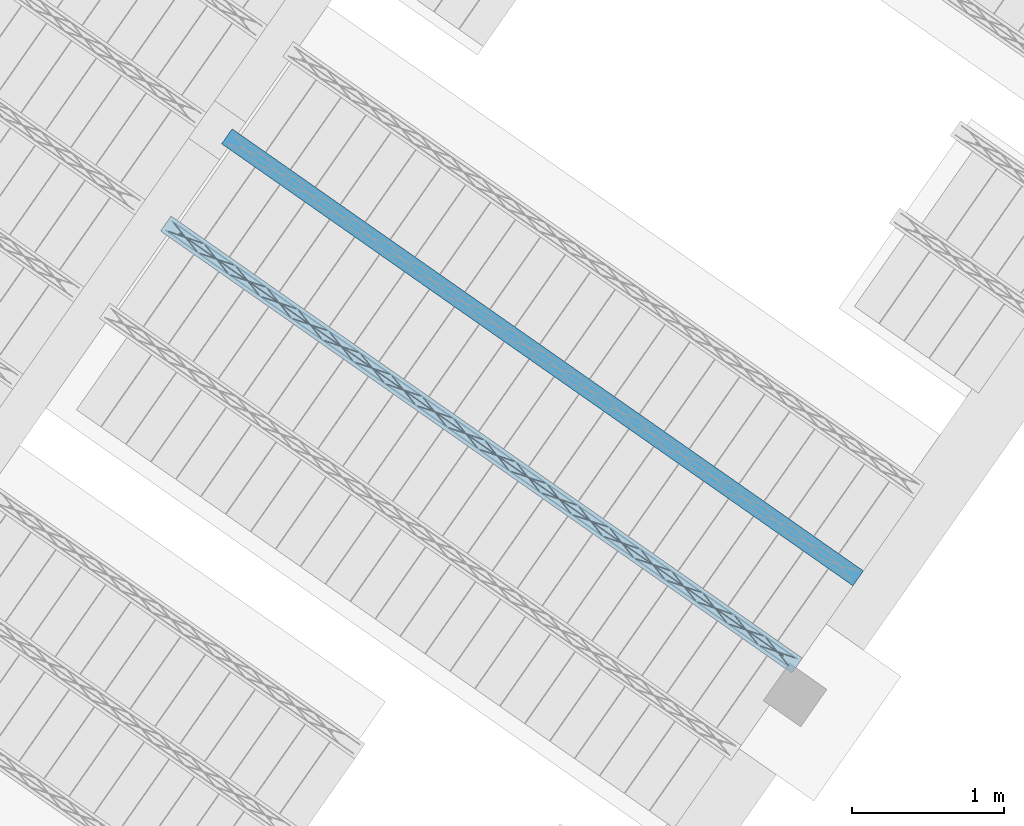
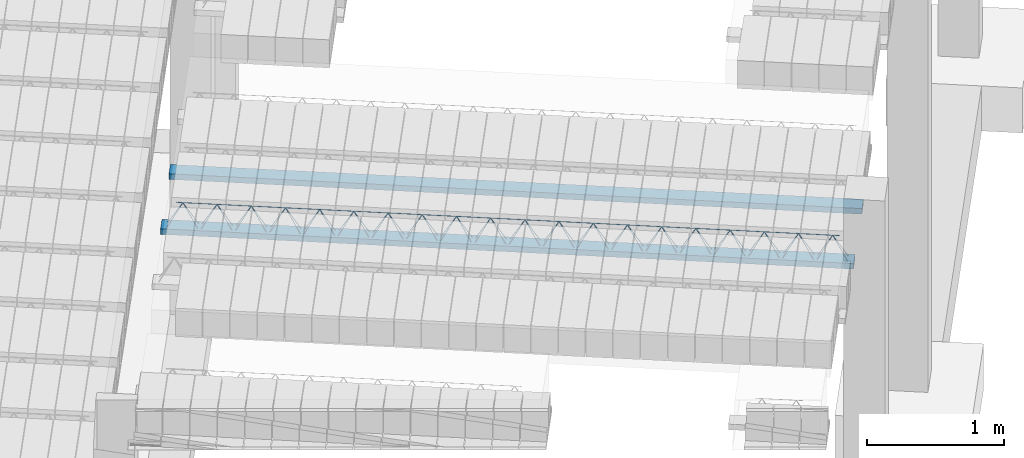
# One storey, part 25 of 80: 2 beams.
"""IFC2X3 building model written with IfcOpenShell, lengths in metres."""

import ifcopenshell
import ifcopenshell.guid

model = None  # the IFC model being written
_history = None  # IfcOwnerHistory: only IFC2X3 demands one
_inside = {}  # id of a spatial element -> (the spatial element, [elements in it])
_under = {}  # id of a project, library or spatial element -> (it, [spatial elements below it])
_declared = {}  # id of a project -> (the project, [libraries it declares])
_typed = {}  # id of a type object -> (the type object, [elements of that type])
_made_of = {}  # id of a material, layer set ... -> (it, [elements and type objects made of it])


def new_model(schema):
    """Start an empty IFC model of exactly this schema.

    Asked for "IFC4X3", IfcOpenShell would pick the latest addendum, in which some entities
    have other attributes; the version numbers below select the first issue.
    IFC2X3 requires an IfcOwnerHistory on every rooted entity: one is made here for all.
    """
    global model, _history
    if schema == "IFC4X3":
        model = ifcopenshell.file(schema_version=(4, 3, 0, 0))
    else:
        model = ifcopenshell.file(schema=schema)
    _inside.clear()
    _under.clear()
    _declared.clear()
    _typed.clear()
    _made_of.clear()
    _history = None
    if model.schema == "IFC2X3":
        org = make("IfcOrganization", Name="unknown")
        user = make(
            "IfcPersonAndOrganization",
            ThePerson=make("IfcPerson", FamilyName="unknown"),
            TheOrganization=org,
        )
        app = make(
            "IfcApplication",
            ApplicationDeveloper=org,
            Version="unknown",
            ApplicationFullName="unknown",
            ApplicationIdentifier="unknown",
        )
        _history = make(
            "IfcOwnerHistory",
            OwningUser=user,
            OwningApplication=app,
            ChangeAction="ADDED",
            CreationDate=0,
        )
    return model


def make(cls, **values):
    """One entity of the class cls with the attributes given. An attribute that is None is left unset."""
    return model.create_entity(
        cls, **{name: value for name, value in values.items() if value is not None}
    )


def entity(cls, *values):
    """Any entity or typed value of the class cls, its attributes in the order of the schema. None: left unset."""
    e = model.create_entity(cls)
    for i, value in enumerate(values):
        if value is not None:
            e[i] = value
    return e


def rooted(cls, **values):
    """An entity with a GlobalId (a new one), such as an element, a storey or a relation."""
    return make(cls, GlobalId=ifcopenshell.guid.new(), OwnerHistory=_history, **values)


def si_unit(unit_type, name, prefix=None):
    """IfcSIUnit, for example si_unit("LENGTHUNIT", "METRE", prefix="MILLI")."""
    return make("IfcSIUnit", UnitType=unit_type, Prefix=prefix, Name=name)


def converted_unit(unit_type, name, factor, base, dimensions=None, offset=None):
    """IfcConversionBasedUnit, such as the inch: factor (a typed value) times the base unit."""
    return make(
        "IfcConversionBasedUnit"
        if offset is None
        else "IfcConversionBasedUnitWithOffset",
        ConversionOffset=offset,
        Dimensions=None
        if dimensions is None
        else entity("IfcDimensionalExponents", *dimensions),
        UnitType=unit_type,
        Name=name,
        ConversionFactor=make(
            "IfcMeasureWithUnit", ValueComponent=factor, UnitComponent=base
        ),
    )


def derived_unit(unit_type, elements):
    """IfcDerivedUnit: a product of units, each with its exponent."""
    return make(
        "IfcDerivedUnit",
        Elements=[
            make("IfcDerivedUnitElement", Unit=unit, Exponent=power)
            for unit, power in elements
        ],
        UnitType=unit_type,
    )


def assignment(units):
    """IfcUnitAssignment: the units of a project."""
    return None if units is None else make("IfcUnitAssignment", Units=units)


def point(xyz):
    """IfcCartesianPoint."""
    return None if xyz is None else make("IfcCartesianPoint", Coordinates=xyz)


def direction(xyz):
    """IfcDirection."""
    return None if xyz is None else make("IfcDirection", DirectionRatios=xyz)


def frame(location, z_axis=None, x_axis=None):
    """IfcAxis2Placement3D, a coordinate frame: its origin and axes. An axis left out is left unset."""
    return make(
        "IfcAxis2Placement3D",
        Location=point(location),
        Axis=direction(z_axis),
        RefDirection=direction(x_axis),
    )


def frame_2d(location, x_axis=None):
    """IfcAxis2Placement2D, a coordinate frame in the plane: its origin and x axis."""
    return make(
        "IfcAxis2Placement2D", Location=point(location), RefDirection=direction(x_axis)
    )


def origin():
    """The frame at (0, 0, 0) with its axes left unset."""
    return frame((0.0, 0.0, 0.0))


def origin_2d_with_axis():
    """The frame at (0, 0) in the plane with the x axis (1, 0) written out."""
    return frame_2d((0.0, 0.0), x_axis=(1.0, 0.0))


def place(relative_to, where):
    """IfcLocalPlacement: puts the frame where relative to a parent placement (None: the world)."""
    return make(
        "IfcLocalPlacement", PlacementRelTo=relative_to, RelativePlacement=where
    )


def context(
    kind, dimensions, precision=None, world=None, true_north=None, identifier=None
):
    """IfcGeometricRepresentationContext, for example the 3D "Model" context."""
    return make(
        "IfcGeometricRepresentationContext",
        ContextIdentifier=identifier,
        ContextType=kind,
        CoordinateSpaceDimension=dimensions,
        Precision=precision,
        WorldCoordinateSystem=world,
        TrueNorth=true_north,
    )


def subcontext(parent, identifier, kind, view, scale=None):
    """IfcGeometricRepresentationSubContext, for example "Body" below "Model"."""
    return make(
        "IfcGeometricRepresentationSubContext",
        ContextIdentifier=identifier,
        ContextType=kind,
        ParentContext=parent,
        TargetScale=scale,
        TargetView=view,
    )


def project(units=None, contexts=None):
    """IfcProject with its units and contexts."""
    return rooted(
        "IfcProject",
        Name="project",
        RepresentationContexts=contexts,
        UnitsInContext=assignment(units),
    )


def spatial(cls, under=None, at=None, **own):
    """A site, building, storey or space (cls), placed at a placement, below another one or the project."""
    s = rooted(cls, ObjectPlacement=at, **own)
    if under is not None:
        _under.setdefault(under.id(), (under, []))[1].append(s)
    return s


def profile(cls, at=None, kind="AREA", **sizes):
    """A parametric profile (cls). Its sizes go by their IFC names, for example OverallWidth=200.0."""
    return make(cls, ProfileType=kind, Position=at, **sizes)


def rectangle(**sizes):
    """IfcRectangleProfileDef."""
    return profile("IfcRectangleProfileDef", **sizes)


def circle(**sizes):
    """IfcCircleProfileDef."""
    return profile("IfcCircleProfileDef", **sizes)


def extrude(swept, where, along, depth):
    """IfcExtrudedAreaSolid: the profile swept, set in the frame where, extruded along a direction by depth."""
    return make(
        "IfcExtrudedAreaSolid",
        SweptArea=swept,
        Position=where,
        ExtrudedDirection=direction(along),
        Depth=depth,
    )


def shape(context_of_items, identifier, shape_type, items):
    """IfcShapeRepresentation: the items that make up one representation, for example the "Body"."""
    return make(
        "IfcShapeRepresentation",
        ContextOfItems=context_of_items,
        RepresentationIdentifier=identifier,
        RepresentationType=shape_type,
        Items=items,
    )


def material(Name=None, Category=None):
    """IfcMaterial."""
    return make("IfcMaterial", Name=Name, Category=Category)


def made_of(thing, what):
    """Note that an element or type object is made of a material, layer set ...; save() writes the relation."""
    if what is not None:
        _made_of.setdefault(what.id(), (what, []))[1].append(thing)
    return thing


def type_object(cls, material=None, **own):
    """A type object (cls), such as IfcWallType, which elements share."""
    return made_of(rooted(cls, **own), material)


def element(
    cls,
    number,
    at=None,
    inside=None,
    cuts=None,
    type_object=None,
    material=None,
    context=None,
    identifier="Body",
    shape_type=None,
    held_by="IfcProductDefinitionShape",
    body=None,
    shapes=None,
    **own,
):
    """One element of the class cls, such as IfcWall. Its Tag is "e" and its number.

    at: its placement. inside: the storey or other place that contains it. cuts: it is an
    opening in that element (IfcRelVoidsElement). A single representation is given by context,
    identifier, shape_type and body (its items); several are given by shapes. held_by: the class
    of the entity that holds the representations. save() writes the other relations.
    """
    e = rooted(cls, Tag="e%d" % number, ObjectPlacement=at, **own)
    if body is not None:
        shapes = [shape(context, identifier, shape_type, body)]
    if shapes is not None:
        e.Representation = make(held_by, Representations=shapes)
    if inside is not None:
        _inside.setdefault(inside.id(), (inside, []))[1].append(e)
    if cuts is not None:
        rooted(
            "IfcRelVoidsElement", RelatingBuildingElement=cuts, RelatedOpeningElement=e
        )
    if type_object is not None:
        _typed.setdefault(type_object.id(), (type_object, []))[1].append(e)
    return made_of(e, material)


def aggregate(whole, parts):
    """IfcRelAggregates: a whole, such as a stair, and the parts it consists of."""
    return rooted("IfcRelAggregates", RelatingObject=whole, RelatedObjects=parts)


def save(model, path):
    """Write the relations noted so far, then the file.

    IfcRelAggregates (storeys below a building ...), IfcRelContainedInSpatialStructure (elements
    in a storey), IfcRelDefinesByType, IfcRelAssociatesMaterial and IfcRelDeclares: one each for
    every whole, place, type object, material and project.
    """
    for whole, parts in _under.values():
        aggregate(whole, parts)
    for where, things in _inside.values():
        rooted(
            "IfcRelContainedInSpatialStructure",
            RelatedElements=things,
            RelatingStructure=where,
        )
    for kind, things in _typed.values():
        rooted("IfcRelDefinesByType", RelatedObjects=things, RelatingType=kind)
    for what, things in _made_of.values():
        rooted("IfcRelAssociatesMaterial", RelatedObjects=things, RelatingMaterial=what)
    for by, libraries in _declared.values():
        rooted("IfcRelDeclares", RelatingContext=by, RelatedDefinitions=libraries)
    model.write(path)


model = new_model("IFC2X3")

# Units and contexts
model_context = context("Model", 3, precision=1e-05, world=origin(), true_north=direction((6.123031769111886e-17, 1.0)))
body_context = subcontext(model_context, "Body", "Model", "MODEL_VIEW")
ifc_project = project(units=[si_unit("LENGTHUNIT", "METRE"), si_unit("AREAUNIT", "SQUARE_METRE"), si_unit("VOLUMEUNIT", "CUBIC_METRE"), converted_unit("PLANEANGLEUNIT", "DEGREE", entity("IfcPlaneAngleMeasure", 0.017453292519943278), si_unit("PLANEANGLEUNIT", "RADIAN"), dimensions=[0, 0, 0, 0, 0, 0, 0]), si_unit("MASSUNIT", "GRAM", prefix="KILO"), derived_unit("MASSDENSITYUNIT", [(si_unit("MASSUNIT", "GRAM", prefix="KILO"), 1), (si_unit("LENGTHUNIT", "METRE"), -3)]), derived_unit("IONCONCENTRATIONUNIT", [(si_unit("MASSUNIT", "GRAM", prefix="KILO"), 1), (si_unit("LENGTHUNIT", "METRE"), -3)]), derived_unit("MOMENTOFINERTIAUNIT", [(si_unit("LENGTHUNIT", "METRE"), 4)]), si_unit("TIMEUNIT", "SECOND"), si_unit("FREQUENCYUNIT", "HERTZ"), si_unit("THERMODYNAMICTEMPERATUREUNIT", "DEGREE_CELSIUS"), derived_unit("THERMALTRANSMITTANCEUNIT", [(si_unit("MASSUNIT", "GRAM", prefix="KILO"), 1), (si_unit("THERMODYNAMICTEMPERATUREUNIT", "KELVIN"), -1), (si_unit("TIMEUNIT", "SECOND"), -3)]), derived_unit("THERMALCONDUCTANCEUNIT", [(si_unit("MASSUNIT", "GRAM", prefix="KILO"), 1), (si_unit("THERMODYNAMICTEMPERATUREUNIT", "KELVIN"), -1), (si_unit("TIMEUNIT", "SECOND"), -3), (si_unit("LENGTHUNIT", "METRE"), 1)]), derived_unit("VOLUMETRICFLOWRATEUNIT", [(si_unit("LENGTHUNIT", "METRE", prefix="DECI"), 3), (si_unit("TIMEUNIT", "SECOND"), -1)]), derived_unit("MASSFLOWRATEUNIT", [(si_unit("MASSUNIT", "GRAM", prefix="KILO"), 1), (si_unit("TIMEUNIT", "SECOND"), -1)]), derived_unit("ROTATIONALFREQUENCYUNIT", [(si_unit("TIMEUNIT", "SECOND"), -1)]), si_unit("ELECTRICCURRENTUNIT", "AMPERE"), si_unit("ELECTRICVOLTAGEUNIT", "VOLT"), si_unit("POWERUNIT", "WATT"), si_unit("FORCEUNIT", "NEWTON", prefix="KILO"), si_unit("ILLUMINANCEUNIT", "LUX"), si_unit("LUMINOUSFLUXUNIT", "LUMEN"), si_unit("LUMINOUSINTENSITYUNIT", "CANDELA"), si_unit("ENERGYUNIT", "JOULE"), derived_unit("USERDEFINED", [(si_unit("MASSUNIT", "GRAM", prefix="KILO"), -1), (si_unit("LENGTHUNIT", "METRE"), -2), (si_unit("TIMEUNIT", "SECOND"), 3), (si_unit("LUMINOUSFLUXUNIT", "LUMEN"), 1)]), derived_unit("USERDEFINED", [(si_unit("MASSUNIT", "GRAM", prefix="KILO"), 1), (si_unit("TIMEUNIT", "SECOND"), -3), (si_unit("LENGTHUNIT", "METRE"), 3), (si_unit("ELECTRICCURRENTUNIT", "AMPERE"), -2)]), derived_unit("SOUNDPOWERUNIT", [(si_unit("MASSUNIT", "GRAM", prefix="KILO"), 1), (si_unit("TIMEUNIT", "SECOND"), -3), (si_unit("LENGTHUNIT", "METRE"), 2)]), derived_unit("SOUNDPRESSUREUNIT", [(si_unit("MASSUNIT", "GRAM", prefix="KILO"), 1), (si_unit("LENGTHUNIT", "METRE"), -1), (si_unit("TIMEUNIT", "SECOND"), -2)]), derived_unit("LINEARVELOCITYUNIT", [(si_unit("LENGTHUNIT", "METRE"), 1), (si_unit("TIMEUNIT", "SECOND"), -1)]), si_unit("PRESSUREUNIT", "PASCAL"), derived_unit("USERDEFINED", [(si_unit("MASSUNIT", "GRAM", prefix="KILO"), 1), (si_unit("LENGTHUNIT", "METRE"), -2), (si_unit("TIMEUNIT", "SECOND"), -2)]), derived_unit("LINEARFORCEUNIT", [(si_unit("MASSUNIT", "GRAM", prefix="KILO"), 1), (si_unit("TIMEUNIT", "SECOND"), -2)]), derived_unit("PLANARFORCEUNIT", [(si_unit("MASSUNIT", "GRAM", prefix="KILO"), 1), (si_unit("LENGTHUNIT", "METRE"), -1), (si_unit("TIMEUNIT", "SECOND"), -2)]), derived_unit("SPECIFICHEATCAPACITYUNIT", [(si_unit("THERMODYNAMICTEMPERATUREUNIT", "KELVIN"), -1), (si_unit("LENGTHUNIT", "METRE"), 2), (si_unit("TIMEUNIT", "SECOND"), -2)]), derived_unit("HEATFLUXDENSITYUNIT", [(si_unit("MASSUNIT", "GRAM", prefix="KILO"), 1), (si_unit("TIMEUNIT", "SECOND"), -3)]), derived_unit("HEATINGVALUEUNIT", [(si_unit("LENGTHUNIT", "METRE"), 2), (si_unit("TIMEUNIT", "SECOND"), -2)]), derived_unit("VAPORPERMEABILITYUNIT", [(si_unit("LENGTHUNIT", "METRE"), -1), (si_unit("TIMEUNIT", "SECOND"), 1)]), derived_unit("DYNAMICVISCOSITYUNIT", [(si_unit("MASSUNIT", "GRAM", prefix="KILO"), 1), (si_unit("TIMEUNIT", "SECOND"), -1), (si_unit("LENGTHUNIT", "METRE"), -1)]), derived_unit("THERMALEXPANSIONCOEFFICIENTUNIT", [(si_unit("THERMODYNAMICTEMPERATUREUNIT", "KELVIN"), -1)]), derived_unit("MODULUSOFELASTICITYUNIT", [(si_unit("MASSUNIT", "GRAM", prefix="KILO"), 1), (si_unit("LENGTHUNIT", "METRE"), -1), (si_unit("TIMEUNIT", "SECOND"), -2)]), derived_unit("ISOTHERMALMOISTURECAPACITYUNIT", [(si_unit("MASSUNIT", "GRAM", prefix="KILO"), -1), (si_unit("LENGTHUNIT", "METRE"), 3)]), derived_unit("MOISTUREDIFFUSIVITYUNIT", [(si_unit("TIMEUNIT", "SECOND"), -1), (si_unit("LENGTHUNIT", "METRE"), 2)]), derived_unit("MASSPERLENGTHUNIT", [(si_unit("MASSUNIT", "GRAM", prefix="KILO"), 1), (si_unit("LENGTHUNIT", "METRE"), -1)]), derived_unit("THERMALRESISTANCEUNIT", [(si_unit("MASSUNIT", "GRAM", prefix="KILO"), -1), (si_unit("TIMEUNIT", "SECOND"), 3), (si_unit("THERMODYNAMICTEMPERATUREUNIT", "KELVIN"), 1)]), derived_unit("ACCELERATIONUNIT", [(si_unit("LENGTHUNIT", "METRE"), 1), (si_unit("TIMEUNIT", "SECOND"), -2)]), derived_unit("ANGULARVELOCITYUNIT", [(si_unit("TIMEUNIT", "SECOND"), -1), (si_unit("PLANEANGLEUNIT", "RADIAN"), 1)]), derived_unit("LINEARSTIFFNESSUNIT", [(si_unit("MASSUNIT", "GRAM", prefix="KILO"), 1), (si_unit("TIMEUNIT", "SECOND"), -2)]), derived_unit("WARPINGCONSTANTUNIT", [(si_unit("LENGTHUNIT", "METRE"), 6)]), derived_unit("LINEARMOMENTUNIT", [(si_unit("MASSUNIT", "GRAM", prefix="KILO"), 1), (si_unit("LENGTHUNIT", "METRE"), 1), (si_unit("TIMEUNIT", "SECOND"), -2)]), derived_unit("TORQUEUNIT", [(si_unit("MASSUNIT", "GRAM", prefix="KILO"), 1), (si_unit("LENGTHUNIT", "METRE"), 2), (si_unit("TIMEUNIT", "SECOND"), -2)])], contexts=[model_context])

# Site, building, storey
site_placement = place(None, origin())
site = spatial("IfcSite", under=ifc_project, at=site_placement, Name="Default", CompositionType="ELEMENT")
building_placement = place(site_placement, origin())
building = spatial("IfcBuilding", under=site, at=building_placement, CompositionType="ELEMENT")
storey_placement = place(building_placement, frame((0.0, 0.0, 95.94)))
storey = spatial("IfcBuildingStorey", under=building, at=storey_placement, Name="PB", CompositionType="ELEMENT", Elevation=95.94)

# Beams
beam_type = type_object("IfcBeamType", Name="Vigueta 2 (Paño 6) (Mf = 33.44)", PredefinedType="JOIST")
beam_1_placement = place(storey_placement, origin())
element("IfcBeam", 1, at=beam_1_placement, inside=storey, type_object=beam_type, Name="Vigueta 2 (Paño 6) (Mf = 33.44)", ObjectType="Mf = 33.44", context=body_context, shape_type="SweptSolid", body=[
    extrude(rectangle(XDim=5.065554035, YDim=0.11999999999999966, at=frame_2d((8.881784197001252e-16, 2.0122792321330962e-16), x_axis=(1.0, 0.0))), frame((5.836126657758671, 2.9455062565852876, 3.2799999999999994), z_axis=(0.0, 0.0, 1.0), x_axis=(0.8191520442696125, -0.5735764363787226, 0.0)), (0.0, 0.0, 1.0), 0.04999999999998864),
    extrude(circle(Radius=0.0025, at=origin_2d_with_axis()), frame((3.7604080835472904, 4.354992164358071, 3.3049999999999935), z_axis=(0.8191520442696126, -0.5735764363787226, 0.0), x_axis=(-0.5735764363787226, -0.8191520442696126, 0.0)), (0.0, 0.0, 1.0), 5.017554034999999),
    extrude(circle(Radius=0.0025, at=origin_2d_with_axis()), frame((7.82257036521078, 1.554583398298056, 3.5299999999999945), z_axis=(-0.8191520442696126, 0.5735764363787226, 0.0), x_axis=(-0.5735764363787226, -0.8191520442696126, 0.0)), (0.0, 0.0, 1.0), 4.849999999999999),
    extrude(circle(Radius=0.0025, at=origin_2d_with_axis()), frame((7.863358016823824, 1.482075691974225, 3.3049999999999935), z_axis=(-0.3145304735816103, 0.389334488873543, 0.8657304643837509), x_axis=(-0.7778747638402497, -0.6284193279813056, 0.0)), (0.0, 0.0, 1.0), 0.2598961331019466),
    extrude(circle(Radius=0.0025, at=origin_2d_with_axis()), frame((7.658570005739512, 1.625469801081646, 3.3049999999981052), z_axis=(0.47343050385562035, -0.1624017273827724, 0.8657304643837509), x_axis=(-0.3244721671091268, -0.9458952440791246, 0.0)), (0.0, 0.0, 1.0), 0.25989613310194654),
    extrude(circle(Radius=0.0025, at=origin_2d_with_axis()), frame((7.65857000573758, 1.6254698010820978, 3.3049999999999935), z_axis=(-0.3145304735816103, 0.389334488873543, 0.8657304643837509), x_axis=(-0.7778747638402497, -0.6284193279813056, 0.0)), (0.0, 0.0, 1.0), 0.2598961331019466),
    extrude(circle(Radius=0.0025, at=origin_2d_with_axis()), frame((7.453781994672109, 1.7688639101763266, 3.3049999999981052), z_axis=(0.47343050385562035, -0.1624017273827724, 0.8657304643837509), x_axis=(-0.3244721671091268, -0.9458952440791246, 0.0)), (0.0, 0.0, 1.0), 0.25989613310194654),
    extrude(circle(Radius=0.0025, at=origin_2d_with_axis()), frame((7.4537819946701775, 1.7688639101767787, 3.3049999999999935), z_axis=(-0.3145304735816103, 0.389334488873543, 0.8657304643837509), x_axis=(-0.7778747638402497, -0.6284193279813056, 0.0)), (0.0, 0.0, 1.0), 0.2598961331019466),
    extrude(circle(Radius=0.0025, at=origin_2d_with_axis()), frame((7.248993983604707, 1.9122580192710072, 3.3049999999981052), z_axis=(0.47343050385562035, -0.1624017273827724, 0.8657304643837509), x_axis=(-0.3244721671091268, -0.9458952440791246, 0.0)), (0.0, 0.0, 1.0), 0.25989613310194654),
    extrude(circle(Radius=0.0025, at=origin_2d_with_axis()), frame((7.248993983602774, 1.9122580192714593, 3.3049999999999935), z_axis=(-0.3145304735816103, 0.389334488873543, 0.8657304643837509), x_axis=(-0.7778747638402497, -0.6284193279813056, 0.0)), (0.0, 0.0, 1.0), 0.2598961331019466),
    extrude(circle(Radius=0.0025, at=origin_2d_with_axis()), frame((7.044205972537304, 2.055652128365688, 3.3049999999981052), z_axis=(0.47343050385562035, -0.1624017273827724, 0.8657304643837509), x_axis=(-0.3244721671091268, -0.9458952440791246, 0.0)), (0.0, 0.0, 1.0), 0.25989613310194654),
    extrude(circle(Radius=0.0025, at=origin_2d_with_axis()), frame((7.044205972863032, 2.055652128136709, 3.3049999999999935), z_axis=(-0.3145304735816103, 0.389334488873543, 0.8657304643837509), x_axis=(-0.7778747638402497, -0.6284193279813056, 0.0)), (0.0, 0.0, 1.0), 0.2598961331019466),
    extrude(circle(Radius=0.0025, at=origin_2d_with_axis()), frame((6.839417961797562, 2.199046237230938, 3.3049999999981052), z_axis=(0.47343050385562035, -0.1624017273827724, 0.8657304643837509), x_axis=(-0.3244721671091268, -0.9458952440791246, 0.0)), (0.0, 0.0, 1.0), 0.25989613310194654),
    extrude(circle(Radius=0.0025, at=origin_2d_with_axis()), frame((6.839417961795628, 2.1990462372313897, 3.3049999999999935), z_axis=(-0.3145304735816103, 0.389334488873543, 0.8657304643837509), x_axis=(-0.7778747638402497, -0.6284193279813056, 0.0)), (0.0, 0.0, 1.0), 0.2598961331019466),
    extrude(circle(Radius=0.0025, at=origin_2d_with_axis()), frame((6.634629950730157, 2.3424403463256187, 3.3049999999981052), z_axis=(0.47343050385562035, -0.1624017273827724, 0.8657304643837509), x_axis=(-0.3244721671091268, -0.9458952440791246, 0.0)), (0.0, 0.0, 1.0), 0.25989613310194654),
    extrude(circle(Radius=0.0025, at=origin_2d_with_axis()), frame((6.634629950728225, 2.342440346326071, 3.3049999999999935), z_axis=(-0.3145304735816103, 0.389334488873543, 0.8657304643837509), x_axis=(-0.7778747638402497, -0.6284193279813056, 0.0)), (0.0, 0.0, 1.0), 0.2598961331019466),
    extrude(circle(Radius=0.0025, at=origin_2d_with_axis()), frame((6.429841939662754, 2.4858344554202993, 3.3049999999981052), z_axis=(0.47343050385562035, -0.1624017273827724, 0.8657304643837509), x_axis=(-0.3244721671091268, -0.9458952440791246, 0.0)), (0.0, 0.0, 1.0), 0.25989613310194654),
    extrude(circle(Radius=0.0025, at=origin_2d_with_axis()), frame((6.429841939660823, 2.4858344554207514, 3.3049999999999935), z_axis=(-0.3145304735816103, 0.389334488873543, 0.8657304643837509), x_axis=(-0.7778747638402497, -0.6284193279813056, 0.0)), (0.0, 0.0, 1.0), 0.2598961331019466),
    extrude(circle(Radius=0.0025, at=origin_2d_with_axis()), frame((6.225053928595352, 2.6292285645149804, 3.3049999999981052), z_axis=(0.47343050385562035, -0.1624017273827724, 0.8657304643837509), x_axis=(-0.3244721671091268, -0.9458952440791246, 0.0)), (0.0, 0.0, 1.0), 0.25989613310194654),
    extrude(circle(Radius=0.0025, at=origin_2d_with_axis()), frame((6.225053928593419, 2.629228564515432, 3.3049999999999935), z_axis=(-0.3145304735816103, 0.389334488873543, 0.8657304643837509), x_axis=(-0.7778747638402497, -0.6284193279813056, 0.0)), (0.0, 0.0, 1.0), 0.2598961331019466),
    extrude(circle(Radius=0.0025, at=origin_2d_with_axis()), frame((6.020265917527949, 2.7726226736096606, 3.3049999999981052), z_axis=(0.47343050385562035, -0.1624017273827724, 0.8657304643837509), x_axis=(-0.3244721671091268, -0.9458952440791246, 0.0)), (0.0, 0.0, 1.0), 0.25989613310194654),
    extrude(circle(Radius=0.0025, at=origin_2d_with_axis()), frame((6.020265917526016, 2.7726226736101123, 3.3049999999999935), z_axis=(-0.3145304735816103, 0.389334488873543, 0.8657304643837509), x_axis=(-0.7778747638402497, -0.6284193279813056, 0.0)), (0.0, 0.0, 1.0), 0.2598961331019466),
    extrude(circle(Radius=0.0025, at=origin_2d_with_axis()), frame((5.815477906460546, 2.9160167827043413, 3.3049999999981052), z_axis=(0.47343050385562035, -0.1624017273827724, 0.8657304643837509), x_axis=(-0.3244721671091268, -0.9458952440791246, 0.0)), (0.0, 0.0, 1.0), 0.25989613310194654),
    extrude(circle(Radius=0.0025, at=origin_2d_with_axis()), frame((5.815477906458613, 2.916016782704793, 3.3049999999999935), z_axis=(-0.3145304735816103, 0.389334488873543, 0.8657304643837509), x_axis=(-0.7778747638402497, -0.6284193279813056, 0.0)), (0.0, 0.0, 1.0), 0.2598961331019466),
    extrude(circle(Radius=0.0025, at=origin_2d_with_axis()), frame((5.610689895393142, 3.0594108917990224, 3.3049999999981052), z_axis=(0.47343050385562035, -0.1624017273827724, 0.8657304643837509), x_axis=(-0.3244721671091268, -0.9458952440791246, 0.0)), (0.0, 0.0, 1.0), 0.25989613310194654),
    extrude(circle(Radius=0.0025, at=origin_2d_with_axis()), frame((5.61068989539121, 3.059410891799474, 3.3049999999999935), z_axis=(-0.3145304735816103, 0.389334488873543, 0.8657304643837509), x_axis=(-0.7778747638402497, -0.6284193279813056, 0.0)), (0.0, 0.0, 1.0), 0.2598961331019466),
    extrude(circle(Radius=0.0025, at=origin_2d_with_axis()), frame((5.405901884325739, 3.2028050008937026, 3.3049999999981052), z_axis=(0.47343050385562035, -0.1624017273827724, 0.8657304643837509), x_axis=(-0.3244721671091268, -0.9458952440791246, 0.0)), (0.0, 0.0, 1.0), 0.25989613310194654),
    extrude(circle(Radius=0.0025, at=origin_2d_with_axis()), frame((5.405901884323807, 3.202805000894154, 3.3049999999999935), z_axis=(-0.3145304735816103, 0.389334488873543, 0.8657304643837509), x_axis=(-0.7778747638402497, -0.6284193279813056, 0.0)), (0.0, 0.0, 1.0), 0.2598961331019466),
    extrude(circle(Radius=0.0025, at=origin_2d_with_axis()), frame((5.201113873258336, 3.3461991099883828, 3.3049999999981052), z_axis=(0.47343050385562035, -0.1624017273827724, 0.8657304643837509), x_axis=(-0.3244721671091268, -0.9458952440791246, 0.0)), (0.0, 0.0, 1.0), 0.25989613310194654),
    extrude(circle(Radius=0.0025, at=origin_2d_with_axis()), frame((5.2011138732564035, 3.3461991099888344, 3.3049999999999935), z_axis=(-0.3145304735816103, 0.389334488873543, 0.8657304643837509), x_axis=(-0.7778747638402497, -0.6284193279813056, 0.0)), (0.0, 0.0, 1.0), 0.2598961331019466),
    extrude(circle(Radius=0.0025, at=origin_2d_with_axis()), frame((4.9963258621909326, 3.4895932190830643, 3.3049999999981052), z_axis=(0.47343050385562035, -0.1624017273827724, 0.8657304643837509), x_axis=(-0.3244721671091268, -0.9458952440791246, 0.0)), (0.0, 0.0, 1.0), 0.25989613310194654),
    extrude(circle(Radius=0.0025, at=origin_2d_with_axis()), frame((4.996325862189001, 3.489593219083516, 3.3049999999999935), z_axis=(-0.3145304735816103, 0.389334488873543, 0.8657304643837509), x_axis=(-0.7778747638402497, -0.6284193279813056, 0.0)), (0.0, 0.0, 1.0), 0.2598961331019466),
    extrude(circle(Radius=0.0025, at=origin_2d_with_axis()), frame((4.79153785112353, 3.6329873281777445, 3.3049999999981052), z_axis=(0.47343050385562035, -0.1624017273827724, 0.8657304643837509), x_axis=(-0.3244721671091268, -0.9458952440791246, 0.0)), (0.0, 0.0, 1.0), 0.25989613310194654),
    extrude(circle(Radius=0.0025, at=origin_2d_with_axis()), frame((4.791537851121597, 3.632987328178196, 3.3049999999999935), z_axis=(-0.3145304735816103, 0.389334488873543, 0.8657304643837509), x_axis=(-0.7778747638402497, -0.6284193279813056, 0.0)), (0.0, 0.0, 1.0), 0.2598961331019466),
    extrude(circle(Radius=0.0025, at=origin_2d_with_axis()), frame((4.586749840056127, 3.776381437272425, 3.3049999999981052), z_axis=(0.47343050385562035, -0.1624017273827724, 0.8657304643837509), x_axis=(-0.3244721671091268, -0.9458952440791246, 0.0)), (0.0, 0.0, 1.0), 0.25989613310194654),
    extrude(circle(Radius=0.0025, at=origin_2d_with_axis()), frame((4.586749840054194, 3.7763814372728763, 3.3049999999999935), z_axis=(-0.3145304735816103, 0.389334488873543, 0.8657304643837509), x_axis=(-0.7778747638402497, -0.6284193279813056, 0.0)), (0.0, 0.0, 1.0), 0.2598961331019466),
    extrude(circle(Radius=0.0025, at=origin_2d_with_axis()), frame((4.381961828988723, 3.9197755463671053, 3.3049999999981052), z_axis=(0.47343050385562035, -0.1624017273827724, 0.8657304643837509), x_axis=(-0.3244721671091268, -0.9458952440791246, 0.0)), (0.0, 0.0, 1.0), 0.25989613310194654),
    extrude(circle(Radius=0.0025, at=origin_2d_with_axis()), frame((4.381961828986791, 3.9197755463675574, 3.3049999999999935), z_axis=(-0.3145304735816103, 0.389334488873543, 0.8657304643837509), x_axis=(-0.7778747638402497, -0.6284193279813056, 0.0)), (0.0, 0.0, 1.0), 0.2598961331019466),
    extrude(circle(Radius=0.0025, at=origin_2d_with_axis()), frame((4.17717381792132, 4.063169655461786, 3.3049999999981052), z_axis=(0.47343050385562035, -0.1624017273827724, 0.8657304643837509), x_axis=(-0.3244721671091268, -0.9458952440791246, 0.0)), (0.0, 0.0, 1.0), 0.25989613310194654),
    extrude(circle(Radius=0.0025, at=origin_2d_with_axis()), frame((4.177173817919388, 4.0631696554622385, 3.3049999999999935), z_axis=(-0.3145304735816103, 0.389334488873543, 0.8657304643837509), x_axis=(-0.7778747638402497, -0.6284193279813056, 0.0)), (0.0, 0.0, 1.0), 0.2598961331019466),
    extrude(circle(Radius=0.0025, at=origin_2d_with_axis()), frame((3.9723858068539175, 4.206563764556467, 3.3049999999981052), z_axis=(0.47343050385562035, -0.1624017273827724, 0.8657304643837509), x_axis=(-0.3244721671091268, -0.9458952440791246, 0.0)), (0.0, 0.0, 1.0), 0.25989613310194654),
    extrude(circle(Radius=0.0025, at=origin_2d_with_axis()), frame((3.9723858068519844, 4.206563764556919, 3.3049999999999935), z_axis=(-0.3145304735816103, 0.389334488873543, 0.8657304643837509), x_axis=(-0.7778747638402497, -0.6284193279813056, 0.0)), (0.0, 0.0, 1.0), 0.2598961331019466),
    extrude(circle(Radius=0.0025, at=origin_2d_with_axis()), frame((3.767597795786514, 4.349957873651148, 3.3049999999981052), z_axis=(0.47343050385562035, -0.1624017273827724, 0.8657304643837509), x_axis=(-0.3244721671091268, -0.9458952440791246, 0.0)), (0.0, 0.0, 1.0), 0.25989613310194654),
    extrude(circle(Radius=0.0025, at=origin_2d_with_axis()), frame((7.911845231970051, 1.5360203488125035, 3.3049999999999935), z_axis=(-0.8191520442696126, 0.5735764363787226, 0.0), x_axis=(-0.5735764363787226, -0.8191520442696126, 0.0)), (0.0, 0.0, 1.0), 5.017554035),
    extrude(circle(Radius=0.0025, at=origin_2d_with_axis()), frame((7.904655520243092, 1.541054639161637, 3.3049999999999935), z_axis=(-0.47343050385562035, 0.1624017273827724, 0.8657304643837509), x_axis=(-0.3244721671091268, -0.9458952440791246, 0.0)), (0.0, 0.0, 1.0), 0.25989613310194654),
    extrude(circle(Radius=0.0025, at=origin_2d_with_axis()), frame((7.699867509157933, 1.684448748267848, 3.3049999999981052), z_axis=(0.3145304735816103, -0.389334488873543, 0.8657304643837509), x_axis=(-0.7778747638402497, -0.6284193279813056, 0.0)), (0.0, 0.0, 1.0), 0.2598961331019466),
    extrude(circle(Radius=0.0025, at=origin_2d_with_axis()), frame((7.6998675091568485, 1.68444874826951, 3.3049999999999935), z_axis=(-0.47343050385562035, 0.1624017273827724, 0.8657304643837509), x_axis=(-0.3244721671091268, -0.9458952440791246, 0.0)), (0.0, 0.0, 1.0), 0.25989613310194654),
    extrude(circle(Radius=0.0025, at=origin_2d_with_axis()), frame((7.49507949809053, 1.827842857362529, 3.3049999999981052), z_axis=(0.3145304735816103, -0.389334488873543, 0.8657304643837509), x_axis=(-0.7778747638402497, -0.6284193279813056, 0.0)), (0.0, 0.0, 1.0), 0.2598961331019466),
    extrude(circle(Radius=0.0025, at=origin_2d_with_axis()), frame((7.495079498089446, 1.827842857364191, 3.3049999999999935), z_axis=(-0.47343050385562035, 0.1624017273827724, 0.8657304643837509), x_axis=(-0.3244721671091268, -0.9458952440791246, 0.0)), (0.0, 0.0, 1.0), 0.25989613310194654),
    extrude(circle(Radius=0.0025, at=origin_2d_with_axis()), frame((7.2902914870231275, 1.9712369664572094, 3.3049999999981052), z_axis=(0.3145304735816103, -0.389334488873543, 0.8657304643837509), x_axis=(-0.7778747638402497, -0.6284193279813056, 0.0)), (0.0, 0.0, 1.0), 0.2598961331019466),
    extrude(circle(Radius=0.0025, at=origin_2d_with_axis()), frame((7.290291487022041, 1.9712369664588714, 3.3049999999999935), z_axis=(-0.47343050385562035, 0.1624017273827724, 0.8657304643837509), x_axis=(-0.3244721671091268, -0.9458952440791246, 0.0)), (0.0, 0.0, 1.0), 0.25989613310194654),
    extrude(circle(Radius=0.0025, at=origin_2d_with_axis()), frame((7.085503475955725, 2.1146310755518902, 3.3049999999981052), z_axis=(0.3145304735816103, -0.389334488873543, 0.8657304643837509), x_axis=(-0.7778747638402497, -0.6284193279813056, 0.0)), (0.0, 0.0, 1.0), 0.2598961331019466),
    extrude(circle(Radius=0.0025, at=origin_2d_with_axis()), frame((7.085503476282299, 2.1146310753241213, 3.3049999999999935), z_axis=(-0.47343050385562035, 0.1624017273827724, 0.8657304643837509), x_axis=(-0.3244721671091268, -0.9458952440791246, 0.0)), (0.0, 0.0, 1.0), 0.25989613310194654),
    extrude(circle(Radius=0.0025, at=origin_2d_with_axis()), frame((6.8807154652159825, 2.25802518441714, 3.3049999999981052), z_axis=(0.3145304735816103, -0.389334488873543, 0.8657304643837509), x_axis=(-0.7778747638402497, -0.6284193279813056, 0.0)), (0.0, 0.0, 1.0), 0.2598961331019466),
    extrude(circle(Radius=0.0025, at=origin_2d_with_axis()), frame((6.880715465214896, 2.2580251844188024, 3.3049999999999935), z_axis=(-0.47343050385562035, 0.1624017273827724, 0.8657304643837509), x_axis=(-0.3244721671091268, -0.9458952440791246, 0.0)), (0.0, 0.0, 1.0), 0.25989613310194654),
    extrude(circle(Radius=0.0025, at=origin_2d_with_axis()), frame((6.675927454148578, 2.401419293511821, 3.3049999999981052), z_axis=(0.3145304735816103, -0.389334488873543, 0.8657304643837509), x_axis=(-0.7778747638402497, -0.6284193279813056, 0.0)), (0.0, 0.0, 1.0), 0.2598961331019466),
    extrude(circle(Radius=0.0025, at=origin_2d_with_axis()), frame((6.675927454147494, 2.4014192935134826, 3.3049999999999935), z_axis=(-0.47343050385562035, 0.1624017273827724, 0.8657304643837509), x_axis=(-0.3244721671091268, -0.9458952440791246, 0.0)), (0.0, 0.0, 1.0), 0.25989613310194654),
    extrude(circle(Radius=0.0025, at=origin_2d_with_axis()), frame((6.471139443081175, 2.5448134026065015, 3.3049999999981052), z_axis=(0.3145304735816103, -0.389334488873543, 0.8657304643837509), x_axis=(-0.7778747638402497, -0.6284193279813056, 0.0)), (0.0, 0.0, 1.0), 0.2598961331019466),
    extrude(circle(Radius=0.0025, at=origin_2d_with_axis()), frame((6.471139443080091, 2.5448134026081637, 3.3049999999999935), z_axis=(-0.47343050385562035, 0.1624017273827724, 0.8657304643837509), x_axis=(-0.3244721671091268, -0.9458952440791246, 0.0)), (0.0, 0.0, 1.0), 0.25989613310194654),
    extrude(circle(Radius=0.0025, at=origin_2d_with_axis()), frame((6.2663514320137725, 2.688207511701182, 3.3049999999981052), z_axis=(0.3145304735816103, -0.389334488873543, 0.8657304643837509), x_axis=(-0.7778747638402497, -0.6284193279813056, 0.0)), (0.0, 0.0, 1.0), 0.2598961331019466),
    extrude(circle(Radius=0.0025, at=origin_2d_with_axis()), frame((6.266351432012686, 2.688207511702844, 3.3049999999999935), z_axis=(-0.47343050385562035, 0.1624017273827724, 0.8657304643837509), x_axis=(-0.3244721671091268, -0.9458952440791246, 0.0)), (0.0, 0.0, 1.0), 0.25989613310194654),
    extrude(circle(Radius=0.0025, at=origin_2d_with_axis()), frame((6.06156342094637, 2.8316016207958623, 3.3049999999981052), z_axis=(0.3145304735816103, -0.389334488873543, 0.8657304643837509), x_axis=(-0.7778747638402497, -0.6284193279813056, 0.0)), (0.0, 0.0, 1.0), 0.2598961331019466),
    extrude(circle(Radius=0.0025, at=origin_2d_with_axis()), frame((6.0615634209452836, 2.8316016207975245, 3.3049999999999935), z_axis=(-0.47343050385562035, 0.1624017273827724, 0.8657304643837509), x_axis=(-0.3244721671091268, -0.9458952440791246, 0.0)), (0.0, 0.0, 1.0), 0.25989613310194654),
    extrude(circle(Radius=0.0025, at=origin_2d_with_axis()), frame((5.856775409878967, 2.9749957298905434, 3.3049999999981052), z_axis=(0.3145304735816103, -0.389334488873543, 0.8657304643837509), x_axis=(-0.7778747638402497, -0.6284193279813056, 0.0)), (0.0, 0.0, 1.0), 0.2598961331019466),
    extrude(circle(Radius=0.0025, at=origin_2d_with_axis()), frame((5.856775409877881, 2.9749957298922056, 3.3049999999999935), z_axis=(-0.47343050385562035, 0.1624017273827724, 0.8657304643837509), x_axis=(-0.3244721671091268, -0.9458952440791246, 0.0)), (0.0, 0.0, 1.0), 0.25989613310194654),
    extrude(circle(Radius=0.0025, at=origin_2d_with_axis()), frame((5.6519873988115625, 3.118389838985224, 3.3049999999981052), z_axis=(0.3145304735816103, -0.389334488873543, 0.8657304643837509), x_axis=(-0.7778747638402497, -0.6284193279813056, 0.0)), (0.0, 0.0, 1.0), 0.2598961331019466),
    extrude(circle(Radius=0.0025, at=origin_2d_with_axis()), frame((5.651987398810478, 3.118389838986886, 3.3049999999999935), z_axis=(-0.47343050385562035, 0.1624017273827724, 0.8657304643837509), x_axis=(-0.3244721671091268, -0.9458952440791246, 0.0)), (0.0, 0.0, 1.0), 0.25989613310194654),
    extrude(circle(Radius=0.0025, at=origin_2d_with_axis()), frame((5.44719938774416, 3.2617839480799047, 3.3049999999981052), z_axis=(0.3145304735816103, -0.389334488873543, 0.8657304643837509), x_axis=(-0.7778747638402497, -0.6284193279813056, 0.0)), (0.0, 0.0, 1.0), 0.2598961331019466),
    extrude(circle(Radius=0.0025, at=origin_2d_with_axis()), frame((5.447199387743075, 3.261783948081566, 3.3049999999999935), z_axis=(-0.47343050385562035, 0.1624017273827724, 0.8657304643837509), x_axis=(-0.3244721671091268, -0.9458952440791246, 0.0)), (0.0, 0.0, 1.0), 0.25989613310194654),
    extrude(circle(Radius=0.0025, at=origin_2d_with_axis()), frame((5.242411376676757, 3.405178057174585, 3.3049999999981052), z_axis=(0.3145304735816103, -0.389334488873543, 0.8657304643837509), x_axis=(-0.7778747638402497, -0.6284193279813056, 0.0)), (0.0, 0.0, 1.0), 0.2598961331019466),
    extrude(circle(Radius=0.0025, at=origin_2d_with_axis()), frame((5.242411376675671, 3.405178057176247, 3.3049999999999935), z_axis=(-0.47343050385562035, 0.1624017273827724, 0.8657304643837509), x_axis=(-0.3244721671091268, -0.9458952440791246, 0.0)), (0.0, 0.0, 1.0), 0.25989613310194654),
    extrude(circle(Radius=0.0025, at=origin_2d_with_axis()), frame((5.037623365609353, 3.548572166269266, 3.3049999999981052), z_axis=(0.3145304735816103, -0.389334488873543, 0.8657304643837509), x_axis=(-0.7778747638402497, -0.6284193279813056, 0.0)), (0.0, 0.0, 1.0), 0.2598961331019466),
    extrude(circle(Radius=0.0025, at=origin_2d_with_axis()), frame((5.037623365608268, 3.5485721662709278, 3.3049999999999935), z_axis=(-0.47343050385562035, 0.1624017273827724, 0.8657304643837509), x_axis=(-0.3244721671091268, -0.9458952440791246, 0.0)), (0.0, 0.0, 1.0), 0.25989613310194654),
    extrude(circle(Radius=0.0025, at=origin_2d_with_axis()), frame((4.832835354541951, 3.6919662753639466, 3.3049999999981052), z_axis=(0.3145304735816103, -0.389334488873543, 0.8657304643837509), x_axis=(-0.7778747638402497, -0.6284193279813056, 0.0)), (0.0, 0.0, 1.0), 0.2598961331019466),
    extrude(circle(Radius=0.0025, at=origin_2d_with_axis()), frame((4.832835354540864, 3.691966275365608, 3.3049999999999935), z_axis=(-0.47343050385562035, 0.1624017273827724, 0.8657304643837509), x_axis=(-0.3244721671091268, -0.9458952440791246, 0.0)), (0.0, 0.0, 1.0), 0.25989613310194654),
    extrude(circle(Radius=0.0025, at=origin_2d_with_axis()), frame((4.628047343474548, 3.835360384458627, 3.3049999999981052), z_axis=(0.3145304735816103, -0.389334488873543, 0.8657304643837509), x_axis=(-0.7778747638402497, -0.6284193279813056, 0.0)), (0.0, 0.0, 1.0), 0.2598961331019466),
    extrude(circle(Radius=0.0025, at=origin_2d_with_axis()), frame((4.628047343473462, 3.835360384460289, 3.3049999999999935), z_axis=(-0.47343050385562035, 0.1624017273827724, 0.8657304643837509), x_axis=(-0.3244721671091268, -0.9458952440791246, 0.0)), (0.0, 0.0, 1.0), 0.25989613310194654),
    extrude(circle(Radius=0.0025, at=origin_2d_with_axis()), frame((4.423259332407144, 3.978754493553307, 3.3049999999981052), z_axis=(0.3145304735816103, -0.389334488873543, 0.8657304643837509), x_axis=(-0.7778747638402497, -0.6284193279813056, 0.0)), (0.0, 0.0, 1.0), 0.2598961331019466),
    extrude(circle(Radius=0.0025, at=origin_2d_with_axis()), frame((4.423259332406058, 3.9787544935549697, 3.3049999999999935), z_axis=(-0.47343050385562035, 0.1624017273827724, 0.8657304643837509), x_axis=(-0.3244721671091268, -0.9458952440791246, 0.0)), (0.0, 0.0, 1.0), 0.25989613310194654),
    extrude(circle(Radius=0.0025, at=origin_2d_with_axis()), frame((4.218471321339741, 4.122148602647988, 3.3049999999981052), z_axis=(0.3145304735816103, -0.389334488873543, 0.8657304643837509), x_axis=(-0.7778747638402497, -0.6284193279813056, 0.0)), (0.0, 0.0, 1.0), 0.2598961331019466),
    extrude(circle(Radius=0.0025, at=origin_2d_with_axis()), frame((4.218471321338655, 4.12214860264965, 3.3049999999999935), z_axis=(-0.47343050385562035, 0.1624017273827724, 0.8657304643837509), x_axis=(-0.3244721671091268, -0.9458952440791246, 0.0)), (0.0, 0.0, 1.0), 0.25989613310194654),
    extrude(circle(Radius=0.0025, at=origin_2d_with_axis()), frame((4.013683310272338, 4.265542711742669, 3.3049999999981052), z_axis=(0.3145304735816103, -0.389334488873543, 0.8657304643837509), x_axis=(-0.7778747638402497, -0.6284193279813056, 0.0)), (0.0, 0.0, 1.0), 0.2598961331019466),
    extrude(circle(Radius=0.0025, at=origin_2d_with_axis()), frame((4.013683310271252, 4.265542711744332, 3.3049999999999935), z_axis=(-0.47343050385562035, 0.1624017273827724, 0.8657304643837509), x_axis=(-0.3244721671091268, -0.9458952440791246, 0.0)), (0.0, 0.0, 1.0), 0.25989613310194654),
    extrude(circle(Radius=0.0025, at=origin_2d_with_axis()), frame((3.8088952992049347, 4.40893682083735, 3.3049999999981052), z_axis=(0.3145304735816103, -0.389334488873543, 0.8657304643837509), x_axis=(-0.7778747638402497, -0.6284193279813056, 0.0)), (0.0, 0.0, 1.0), 0.2598961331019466),
])
ifc_material = material(Name="Hormigón armado")
beam_2_placement = place(storey_placement, origin())
element("IfcBeam", 2, at=beam_2_placement, inside=storey, material=ifc_material, Name="238440", context=body_context, shape_type="SweptSolid", body=[
    extrude(rectangle(XDim=0.04999999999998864, YDim=0.11999999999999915, at=origin_2d_with_axis()), frame((4.162900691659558, 4.971653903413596, 3.3049999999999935), z_axis=(0.8191520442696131, -0.5735764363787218, 0.0), x_axis=(0.0, 0.0, -1.0)), (0.0, 0.0, 1.0), 5.065554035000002),
])

save(model, "model.ifc")
